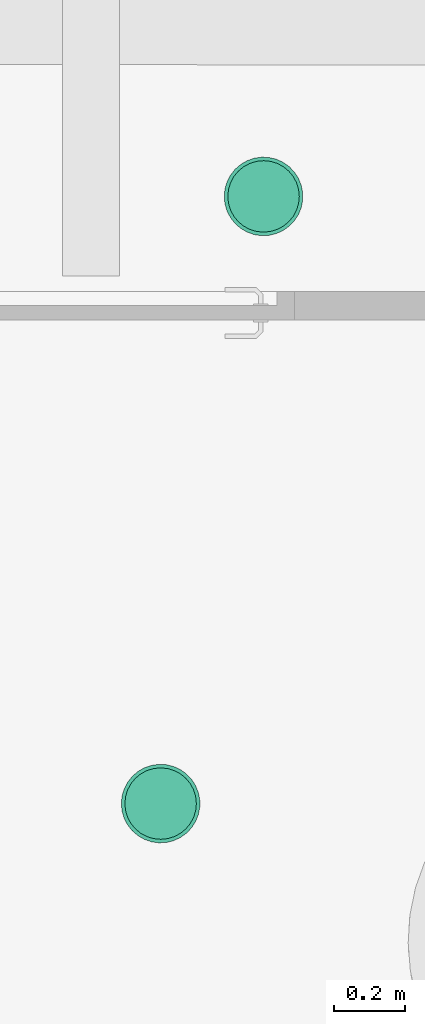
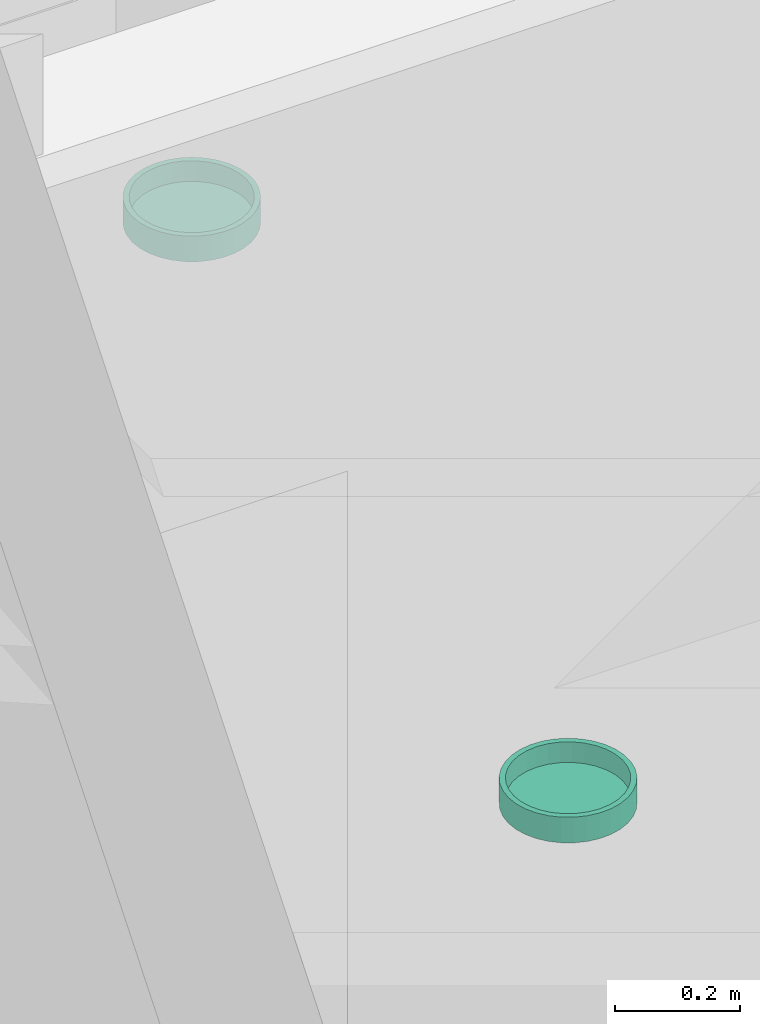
# One storey, part 69 of 128: 2 flow terminals.
"""IFC2X3 building model written with IfcOpenShell, lengths in metres."""

from ifc_helpers import new_model, entity, si_unit, converted_unit, derived_unit, direction, frame, frame_2d, origin, place, context, subcontext, project, spatial, circle, hollow_circle, extrude, source, transform, mapped, material, type_object, type_shapes, element, save


model = new_model("IFC2X3")

# Units and contexts
model_context = context("Model", 3, precision=1e-05, world=origin(), true_north=direction((6.123031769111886e-17, 1.0)))
body_context = subcontext(model_context, "Body", "Model", "MODEL_VIEW")
ifc_project = project(units=[si_unit("LENGTHUNIT", "METRE"), si_unit("AREAUNIT", "SQUARE_METRE"), converted_unit("PLANEANGLEUNIT", "DEGREE", entity("IfcPlaneAngleMeasure", 0.017453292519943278), si_unit("PLANEANGLEUNIT", "RADIAN"), dimensions=[0, 0, 0, 0, 0, 0, 0]), derived_unit("THERMALTRANSMITTANCEUNIT", [(si_unit("MASSUNIT", "GRAM", prefix="KILO"), 1), (si_unit("THERMODYNAMICTEMPERATUREUNIT", "KELVIN"), -1), (si_unit("TIMEUNIT", "SECOND"), -3)])], contexts=[model_context])

# Site, building, storey
site_placement = place(None, origin())
site = spatial("IfcSite", under=ifc_project, at=site_placement, Name="Default", CompositionType="ELEMENT")
building_placement = place(site_placement, origin())
building = spatial("IfcBuilding", under=site, at=building_placement, CompositionType="ELEMENT")
storey_placement = place(building_placement, origin())
storey = spatial("IfcBuildingStorey", under=building, at=storey_placement, Name="00_RDC CAF", CompositionType="ELEMENT", Elevation=2.4982504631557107e-13)

# Flow terminals
ifc_material = material(Name="ARC - Eq Elec - Blanc")
light_fixture_type = type_object("IfcLightFixtureType", Name="Eq_Elec_Luminaire_Circulaire_LED_Applique:Eq_Elec_Luminaire_Circulaire_LED_Applique_D220x50mm", PredefinedType="NOTDEFINED", material=ifc_material)
shared_shape = source(origin(), body_context, "Body", "SweptSolid", [
    extrude(circle(Radius=0.09999999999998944, at=frame_2d((0.0, -1.6155445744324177e-16), x_axis=(1.0, 0.0))), frame((0.0, 0.0, 0.0399999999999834)), (0.0, 0.0, 1.0), 0.010000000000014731),
    extrude(hollow_circle(Radius=0.10999999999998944, WallThickness=0.009999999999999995, at=frame_2d((-4.2299497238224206e-18, 1.77709903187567e-16), x_axis=(1.0, 0.0))), frame((0.0, 0.0, 0.0), z_axis=(0.0, 0.0, 1.0), x_axis=(-1.0, 0.0, 0.0)), (0.0, 0.0, 1.0), 0.05000000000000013),
])
type_shapes(light_fixture_type, [shared_shape])
for number, where, z_axis, x_axis in (
    (1, (19.641233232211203, 130.56748300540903, 2.479999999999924), (0.0, 0.0, -1.0), (1.0, 0.0, 0.0)),
    (2, (19.929233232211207, 132.26648300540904, 2.479999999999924), (0.0, 0.0, -1.0), (1.0, 0.0, 0.0)),
):
    element("IfcFlowTerminal", number, at=place(storey_placement, frame(where, z_axis=z_axis, x_axis=x_axis)), inside=storey, type_object=light_fixture_type, material=ifc_material, Name="Eq_Elec_Luminaire_Circulaire_LED_Applique:Eq_Elec_Luminaire_Circulaire_LED_Applique_D220x50mm", ObjectType="Eq_Elec_Luminaire_Circulaire_LED_Applique:Eq_Elec_Luminaire_Circulaire_LED_Applique_D220x50mm", context=body_context, shape_type="MappedRepresentation", body=[
        mapped(shared_shape, transform((0.0, 0.0, 0.0), scale=1.0)),
    ])

save(model, "model.ifc")
